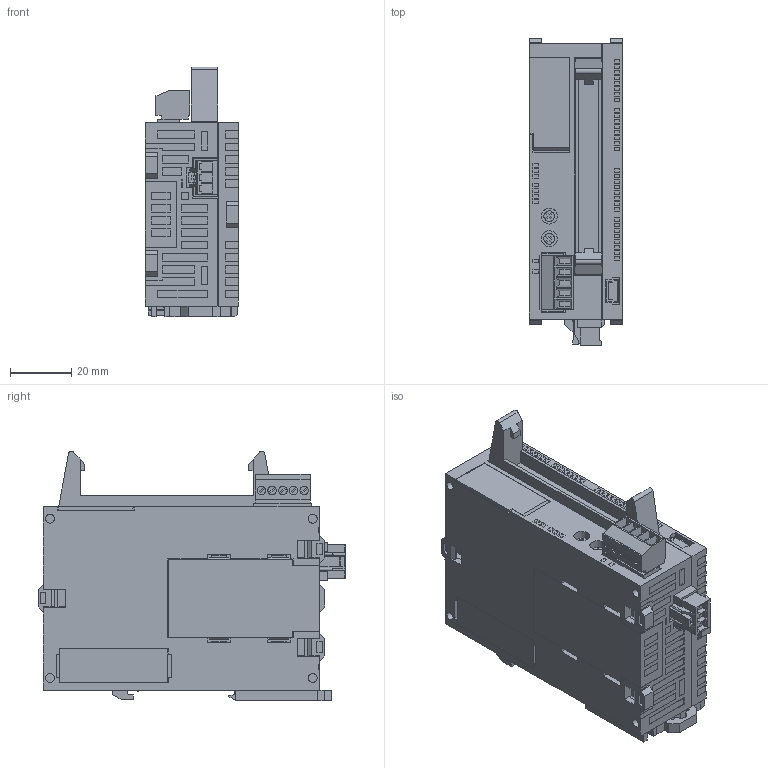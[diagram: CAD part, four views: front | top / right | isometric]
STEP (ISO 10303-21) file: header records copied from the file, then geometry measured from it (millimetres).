
FILE_DESCRIPTION (( 'STEP AP203' ), '1' );
FILE_NAME ('afp0hc32t_.STEP', '2017-08-29T10:11:30', ( '' ), ( '' ), 'SwSTEP 2.0', 'SolidWorks 2014', '' );
FILE_SCHEMA (( 'CONFIG_CONTROL_DESIGN' ));
Length unit declared in the file: millimetre
Products named in the file (10): afp0h_label; afp0h_cover_cn; afp0h_cover_afp0hc32t; afp0h_afp0hc32t; afp0h_cassette_cover; afp0h_terminal_5P; afp0h_afpg805; afp0h_expansionhook; afp0hc32t_; afp0h_dinhook 
Assembly tree (13 placements, depth 2):
  afp0hc32t_
    afp0h_afp0hc32t
    afp0h_expansionhook  x5
    afp0h_cover_cn
    afp0h_terminal_5P
    afp0h_dinhook 
    afp0h_cover_afp0hc32t
    afp0h_afpg805
    afp0h_label
    afp0h_cassette_cover
Bounding box: 30.48 x 100.52 x 81.6 mm (x, y, z)
Volume: 150708.4 mm3; surface area: 42759.1 mm2
Topology: 13 solids, 13 shells, 1542 faces, 4112 edges, 2728 vertices
Faces by surface type: plane 1479, cylinder 63
Entity records: 44616 total; most frequent: CARTESIAN_POINT 7760, ORIENTED_EDGE 7576, DIRECTION 6806, EDGE_CURVE 3788, VECTOR 3642, LINE 3642, VERTEX_POINT 2512, AXIS2_PLACEMENT_3D 1582
